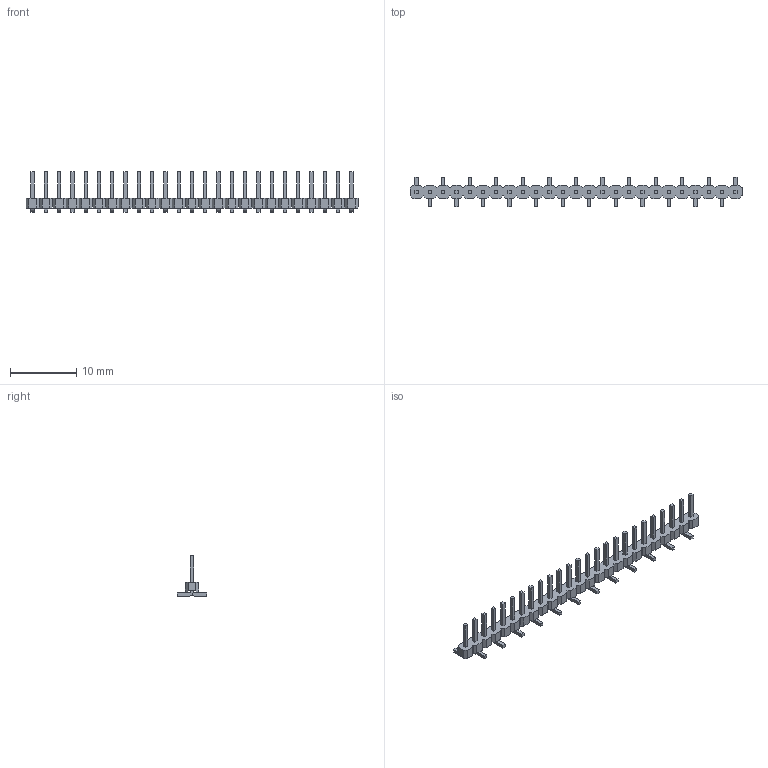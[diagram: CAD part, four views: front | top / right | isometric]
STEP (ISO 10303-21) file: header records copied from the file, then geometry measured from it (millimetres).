
FILE_DESCRIPTION((''),'2;1');
FILE_NAME('C-2-2842102-5','2021-08-24T16:19:11',('workeradm'),('TE Connectivity Ltd.'),'CREO PARAMETRIC BY PTC INC, 2021072','CREO PARAMETRIC BY PTC INC, 2021072','');
FILE_SCHEMA(('AUTOMOTIVE_DESIGN { 1 0 10303 214 1 1 1 1 }'));
Length unit declared in the file: millimetre
Products named in the file (1): C-2-2842102-5
Bounding box: 50 x 4.5 x 6.1 mm (x, y, z)
Volume: 165.7 mm3; surface area: 708.2 mm2
Topology: 1 solids, 1 shells, 656 faces, 1712 edges, 1108 vertices
Faces by surface type: plane 606, cylinder 50
Entity records: 19832 total; most frequent: CARTESIAN_POINT 3478, ORIENTED_EDGE 3424, DIRECTION 3124, EDGE_CURVE 1712, VECTOR 1612, LINE 1612, VERTEX_POINT 1108, AXIS2_PLACEMENT_3D 756
